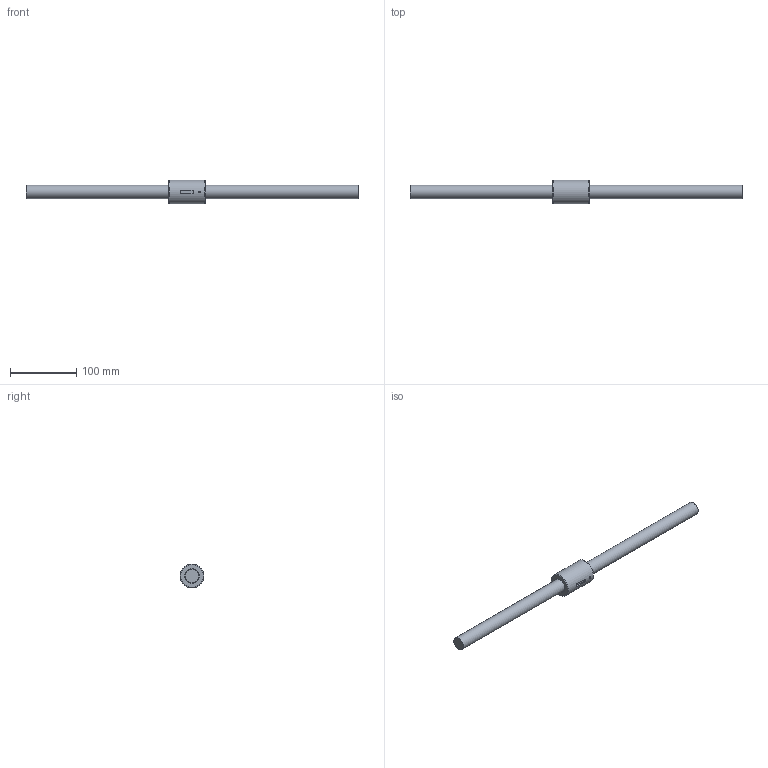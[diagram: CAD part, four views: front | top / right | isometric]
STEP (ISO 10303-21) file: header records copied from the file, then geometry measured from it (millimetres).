
FILE_DESCRIPTION (( 'STEP AP203' ), '1' );
FILE_NAME ('SCNH02010-3.8.step', '2024-05-10T01:55:30', ( '' ), ( '' ), 'SwSTEP 2.0', 'SolidWorks 2022', '' );
FILE_SCHEMA (( 'CONFIG_CONTROL_DESIGN' ));
Length unit declared in the file: millimetre
Products named in the file (1): SCNH02010-3.8
Bounding box: 500 x 36 x 36 mm (x, y, z)
Volume: 191603.4 mm3; surface area: 43428.7 mm2
Topology: 2 solids, 2 shells, 15 faces, 29 edges, 19 vertices
Faces by surface type: plane 7, cylinder 6, torus 2
Full cylindrical faces by diameter (mm): 3 x1, 20 x1, 22.1 x1, 36 x1
Entity records: 589 total; most frequent: CARTESIAN_POINT 224, DIRECTION 60, ORIENTED_EDGE 44, EDGE_LOOP 26, AXIS2_PLACEMENT_3D 26, EDGE_CURVE 22, FACE_OUTER_BOUND 21, VERTEX_POINT 18
